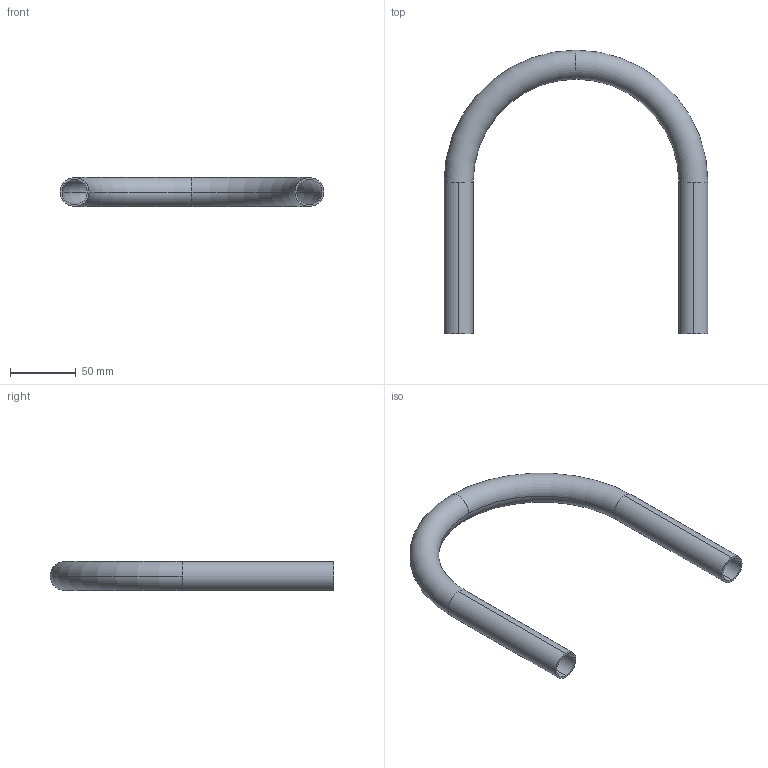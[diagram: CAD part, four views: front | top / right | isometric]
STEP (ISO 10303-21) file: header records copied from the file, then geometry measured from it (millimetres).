
FILE_DESCRIPTION (( 'STEP AP203' ), '1' );
FILE_NAME ('059.022.102.STEP', '2016-10-19T13:43:00', ( 'Utente' ), ( '' ), 'SwSTEP 2.0', 'SolidWorks 2016', '' );
FILE_SCHEMA (( 'CONFIG_CONTROL_DESIGN' ));
Length unit declared in the file: millimetre
Products named in the file (1): 059.022.102
Bounding box: 200 x 215 x 22 mm (x, y, z)
Volume: 49229.6 mm3; surface area: 65832.6 mm2
Topology: 1 solids, 1 shells, 18 faces, 44 edges, 28 vertices
Faces by surface type: torus 8, cylinder 8, plane 2
Entity records: 633 total; most frequent: DIRECTION 118, CARTESIAN_POINT 91, ORIENTED_EDGE 88, AXIS2_PLACEMENT_3D 55, EDGE_CURVE 44, CIRCLE 36, VERTEX_POINT 28, EDGE_LOOP 20
